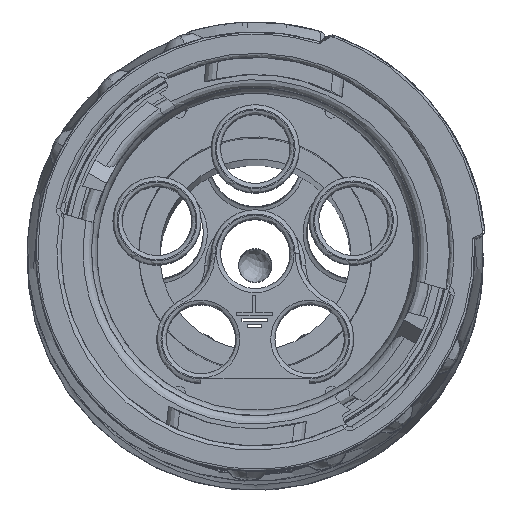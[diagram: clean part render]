
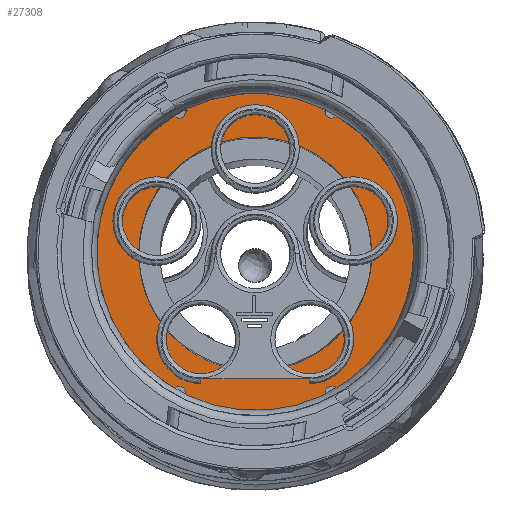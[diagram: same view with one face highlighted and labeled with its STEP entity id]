
A CAD part, top view. The second image highlights one B-rep face of the part: STEP entity #27308.
In plain terms, the highlighted planar face has unit normal (0, 0, -1).
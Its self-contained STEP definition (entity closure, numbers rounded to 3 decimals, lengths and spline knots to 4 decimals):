
#1465 = DIRECTION ( 'NONE',  ( -1., 0., 0. ) ) ;
#3430 = ORIENTED_EDGE ( 'NONE', *, *, #42286, .T. ) ;
#6386 = DIRECTION ( 'NONE',  ( 0., 0., -1. ) ) ;
#7553 = DIRECTION ( 'NONE',  ( -1., 0., 0. ) ) ;
#8123 = EDGE_LOOP ( 'NONE', ( #26236 ) ) ;
#9077 = CARTESIAN_POINT ( 'NONE',  ( -5.3127, -2.769, -45.7882 ) ) ;
#10854 = PLANE ( 'NONE',  #31229 ) ;
#11145 = FACE_BOUND ( 'NONE', #8123, .T. ) ;
#12726 = CIRCLE ( 'NONE', #30558, 7.6918 ) ;
#19679 = VERTEX_POINT ( 'NONE', #28975 ) ;
#21330 = CARTESIAN_POINT ( 'NONE',  ( 2.379, -2.769, -45.7882 ) ) ;
#24849 = CARTESIAN_POINT ( 'NONE',  ( 2.379, -2.769, -45.7882 ) ) ;
#26215 = CIRCLE ( 'NONE', #51096, 5.55 ) ;
#26236 = ORIENTED_EDGE ( 'NONE', *, *, #48617, .F. ) ;
#27308 = ADVANCED_FACE ( 'NONE', ( #48533, #11145 ), #10854, .T. ) ;
#28975 = CARTESIAN_POINT ( 'NONE',  ( -3.171, -2.769, -45.7882 ) ) ;
#29810 = DIRECTION ( 'NONE',  ( 0., 0., -1. ) ) ;
#30558 = AXIS2_PLACEMENT_3D ( 'NONE', #21330, #6386, #1465 ) ;
#31229 = AXIS2_PLACEMENT_3D ( 'NONE', #24849, #29810, #43833 ) ;
#42286 = EDGE_CURVE ( 'NONE', #61083, #61083, #12726, .T. ) ;
#43833 = DIRECTION ( 'NONE',  ( -1., 0., 0. ) ) ;
#45210 = CARTESIAN_POINT ( 'NONE',  ( 2.379, -2.769, -45.7882 ) ) ;
#48533 = FACE_OUTER_BOUND ( 'NONE', #52588, .T. ) ;
#48617 = EDGE_CURVE ( 'NONE', #19679, #19679, #26215, .T. ) ;
#51096 = AXIS2_PLACEMENT_3D ( 'NONE', #45210, #54565, #7553 ) ;
#52588 = EDGE_LOOP ( 'NONE', ( #3430 ) ) ;
#54565 = DIRECTION ( 'NONE',  ( 0., 0., -1. ) ) ;
#61083 = VERTEX_POINT ( 'NONE', #9077 ) ;
